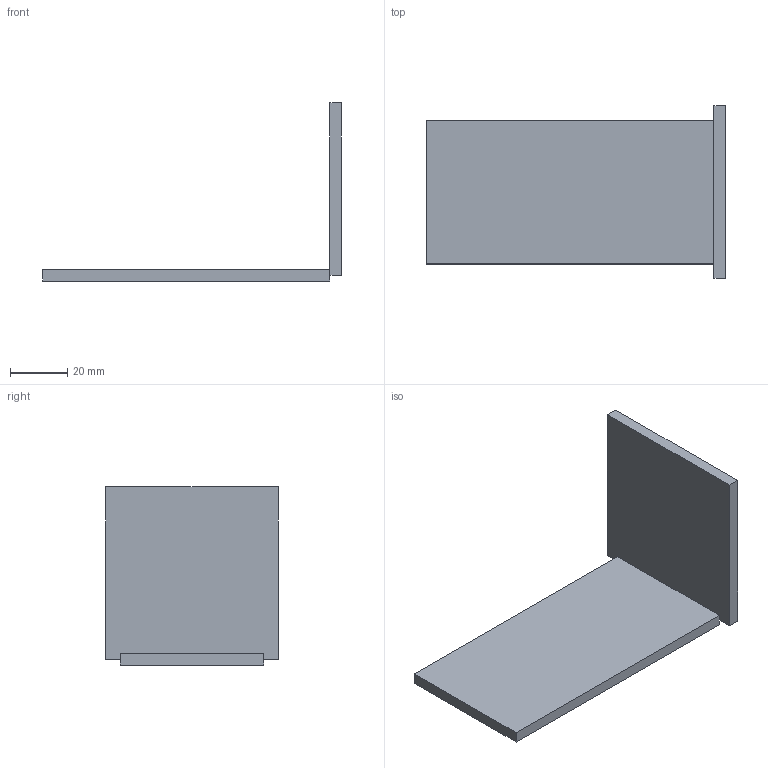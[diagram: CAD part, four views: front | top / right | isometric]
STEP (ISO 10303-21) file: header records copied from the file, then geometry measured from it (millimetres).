
FILE_DESCRIPTION(('Open CASCADE Model'),'2;1');
FILE_NAME('Open CASCADE Shape Model','2026-11-23T20:25:51',('Author'),( 'Open CASCADE'),'Open CASCADE STEP processor 7.9','Open CASCADE 7.9' ,'Unknown');
FILE_SCHEMA(('AUTOMOTIVE_DESIGN { 1 0 10303 214 1 1 1 1 }'));
Length unit declared in the file: millimetre
Products named in the file (1): Open CASCADE STEP translator 7.9 20
Bounding box: 104 x 60 x 62 mm (x, y, z)
Volume: 34400 mm3; surface area: 19160 mm2
Topology: 1 solids, 1 shells, 12 faces, 28 edges, 18 vertices
Faces by surface type: plane 12
Entity records: 710 total; most frequent: CARTESIAN_POINT 115, DIRECTION 110, LINE 84, VECTOR 84, ORIENTED_EDGE 56, PCURVE 56, DEFINITIONAL_REPRESENTATION 56, EDGE_CURVE 28
